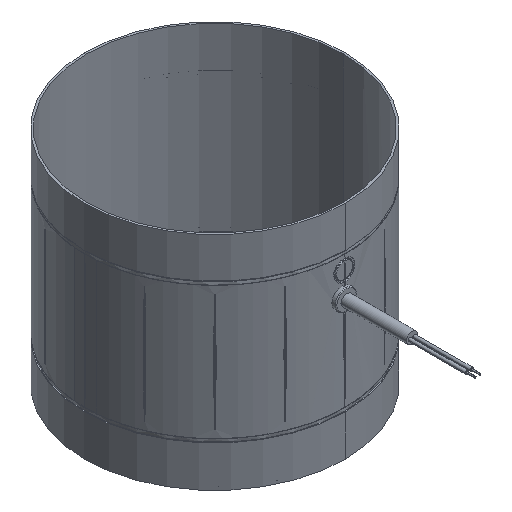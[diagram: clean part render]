
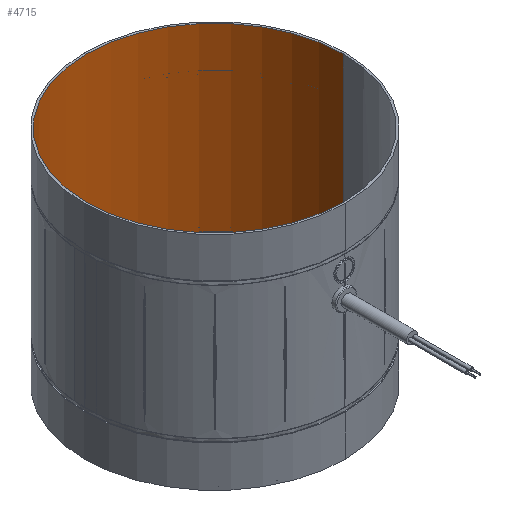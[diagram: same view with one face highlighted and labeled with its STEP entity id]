
A CAD part, isometric view. The second image highlights one B-rep face of the part: STEP entity #4715.
In plain terms, the highlighted cylindrical face has radius 78.25 mm (diameter 156.5 mm), a partial arc.
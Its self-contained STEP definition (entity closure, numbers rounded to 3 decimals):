
#35 = DIRECTION ( 'NONE',  ( 0., 0., 1. ) ) ;
#115 = DIRECTION ( 'NONE',  ( 0., 0., -1. ) ) ;
#117 = CARTESIAN_POINT ( 'NONE',  ( 0., 0., 44.891 ) ) ;
#121 = DIRECTION ( 'NONE',  ( 1., 0., 0. ) ) ;
#392 = CARTESIAN_POINT ( 'NONE',  ( -78.25, 0., 43.142 ) ) ;
#487 = VECTOR ( 'NONE', #35, 1000. ) ;
#525 = LINE ( 'NONE', #392, #487 ) ;
#2215 = DIRECTION ( 'NONE',  ( 0., 0., 1. ) ) ;
#2245 = CARTESIAN_POINT ( 'NONE',  ( -78.25, 0., 178.142 ) ) ;
#2260 = CARTESIAN_POINT ( 'NONE',  ( 78.25, 0., 178.142 ) ) ;
#2452 = DIRECTION ( 'NONE',  ( 1., 0., 0. ) ) ;
#2601 = CARTESIAN_POINT ( 'NONE',  ( -78.25, 0., 44.891 ) ) ;
#2642 = CARTESIAN_POINT ( 'NONE',  ( 0., 0., 43.142 ) ) ;
#2716 = CARTESIAN_POINT ( 'NONE',  ( 78.25, 0., 44.891 ) ) ;
#2969 = VERTEX_POINT ( 'NONE', #2260 ) ;
#3007 = VERTEX_POINT ( 'NONE', #2245 ) ;
#3086 = VERTEX_POINT ( 'NONE', #2601 ) ;
#3674 = FACE_OUTER_BOUND ( 'NONE', #4681, .T. ) ;
#3675 = CYLINDRICAL_SURFACE ( 'NONE', #6142, 78.25 ) ;
#3777 = DIRECTION ( 'NONE',  ( 0., 0., 1. ) ) ;
#3783 = CARTESIAN_POINT ( 'NONE',  ( 0., 0., 178.142 ) ) ;
#3811 = DIRECTION ( 'NONE',  ( 0., 0., 1. ) ) ;
#3839 = DIRECTION ( 'NONE',  ( 1., 0., 0. ) ) ;
#3855 = CARTESIAN_POINT ( 'NONE',  ( 78.25, 0., 43.142 ) ) ;
#4142 = ORIENTED_EDGE ( 'NONE', *, *, #6595, .F. ) ;
#4264 = VERTEX_POINT ( 'NONE', #2716 ) ;
#4279 = ORIENTED_EDGE ( 'NONE', *, *, #6572, .T. ) ;
#4491 = ORIENTED_EDGE ( 'NONE', *, *, #6394, .T. ) ;
#4680 = ORIENTED_EDGE ( 'NONE', *, *, #6392, .T. ) ;
#4681 = EDGE_LOOP ( 'NONE', ( #4142, #4279, #4680, #4491 ) ) ;
#4715 = ADVANCED_FACE ( 'NONE', ( #3674 ), #3675, .F. ) ;
#5035 = CIRCLE ( 'NONE', #6014, 78.25 ) ;
#5131 = CIRCLE ( 'NONE', #5975, 78.25 ) ;
#5132 = VECTOR ( 'NONE', #3811, 1000. ) ;
#5134 = LINE ( 'NONE', #3855, #5132 ) ;
#5975 = AXIS2_PLACEMENT_3D ( 'NONE', #3783, #3777, #3839 ) ;
#6014 = AXIS2_PLACEMENT_3D ( 'NONE', #117, #115, #121 ) ;
#6142 = AXIS2_PLACEMENT_3D ( 'NONE', #2642, #2215, #2452 ) ;
#6392 = EDGE_CURVE ( 'NONE', #4264, #2969, #5134, .T. ) ;
#6394 = EDGE_CURVE ( 'NONE', #2969, #3007, #5131, .T. ) ;
#6572 = EDGE_CURVE ( 'NONE', #3086, #4264, #5035, .T. ) ;
#6595 = EDGE_CURVE ( 'NONE', #3086, #3007, #525, .T. ) ;
